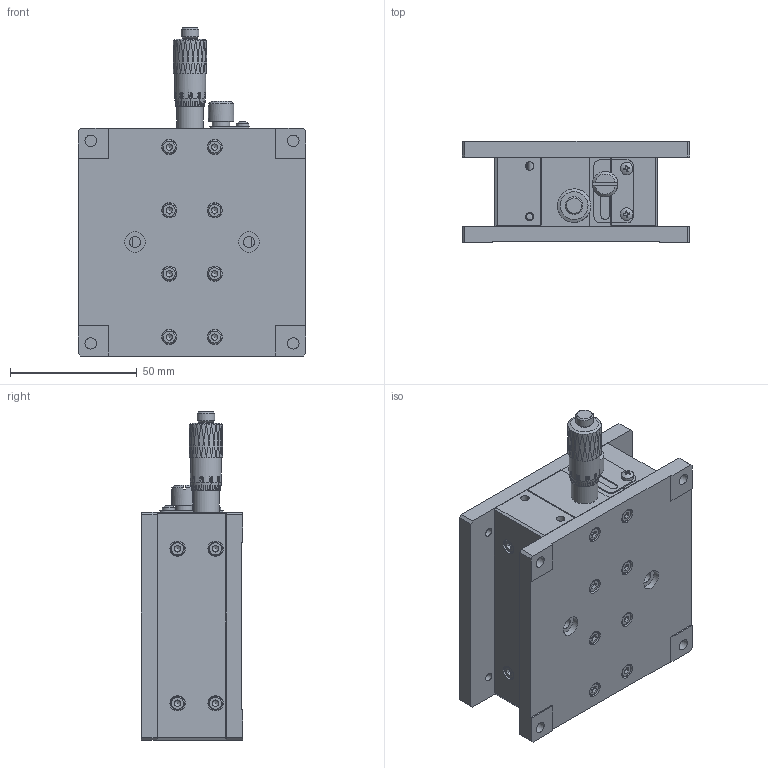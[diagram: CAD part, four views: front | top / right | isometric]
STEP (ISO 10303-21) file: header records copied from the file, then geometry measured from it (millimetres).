
FILE_DESCRIPTION (( 'STEP AP203' ), '1' );
FILE_NAME ('BLEZ90.STEP', '2024-07-03T00:44:49', ( 'Windows User' ), ( 'P R C' ), 'SwSTEP 2.0', 'SolidWorks 2024', '' );
FILE_SCHEMA (( 'CONFIG_CONTROL_DESIGN' ));
Products named in the file (1): BLEZ90
Bounding box: 90 x 40 x 129.52 mm (x, y, z)
Volume: 222708.2 mm3; surface area: 107308.1 mm2
Topology: 48 solids, 48 shells, 1891 faces, 4539 edges, 2903 vertices
Faces by surface type: plane 839, bspline 395, cylinder 384, cone 230, torus 40, sphere 3
Full cylindrical faces by diameter (mm): 1.6 x1, 2.05 x4, 2.5 x32, 2.55 x16, 2.95 x9, 3 x24, 3.2 x1, 3.3 x18, 3.4 x33, 4.4 x16, 4.5 x6, 5 x5, 5.5 x27, 5.6 x1, 5.8 x7, 6 x26, 7 x3, 7.2 x1, 8 x2, 8.1 x2, 8.5 x1, 9.5 x2, 10 x1, 10.5 x1, 12.2 x1
Entity records: 83262 total; most frequent: CARTESIAN_POINT 45174, ORIENTED_EDGE 7936, DIRECTION 6438, EDGE_CURVE 3968, VERTEX_POINT 2750, EDGE_LOOP 2616, AXIS2_PLACEMENT_3D 2469, FACE_OUTER_BOUND 2140
